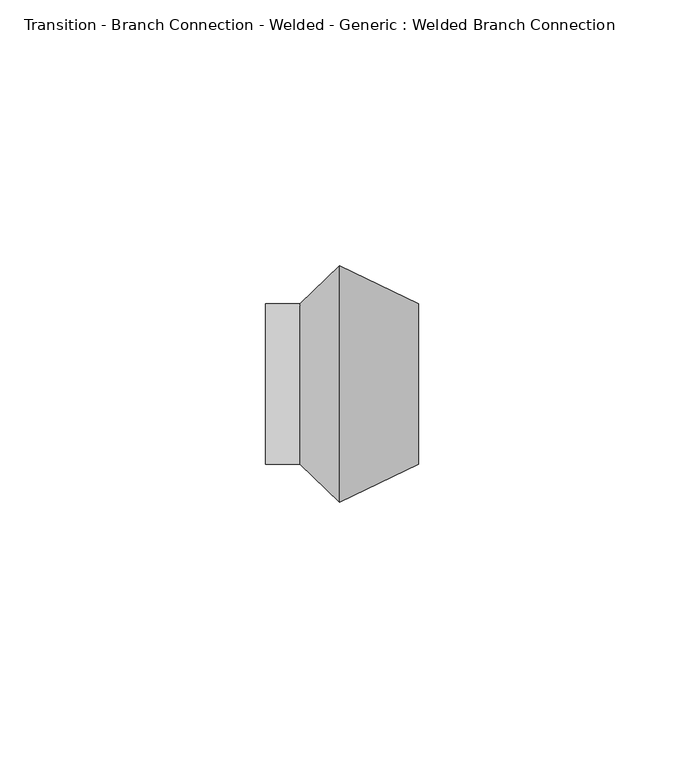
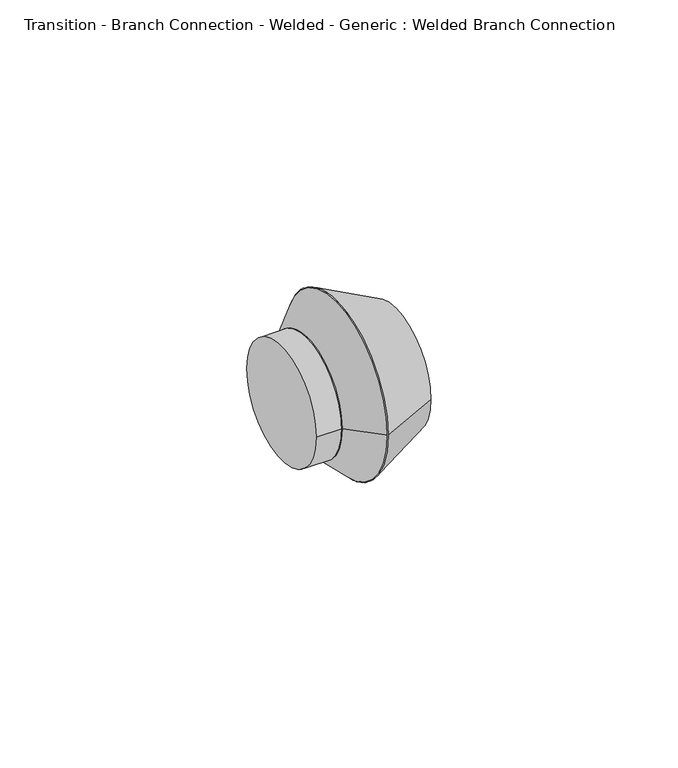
"""IFC4 building model written with IfcOpenShell, lengths in millimetres: pipe fitting geometry, Transition - Branch Connection - Welded - Generic : Welded Branch Connection."""

from ifc_helpers import new_model, si_unit, point, frame, origin, origin_2d, place, context, project, spatial, polyline, circle_curve, trimmed, segment, composite_curve, outline, extrude, source, transform, mapped, element, save
from ifc_brep_helpers import plane_surface, revolved_surface, advanced_brep


def transition_branch_connection_welded_generic_welded_branch_79ac4859(model_context):
    return source(origin(), model_context, "Body", "SolidModel", [
        advanced_brep(
        [(7.4083333, 22.225, 0.0), (7.4083333, -22.225, 0.0), (22.225, 15.08125, 0.0), (22.225, -15.08125, 0.0)],
        [
            (0, 1, circle_curve(frame((7.4083333, 0.0, 0.0), z_axis=(-1.0, 0.0, 0.0), x_axis=(0.0, -1.0, 0.0)), 22.225)),
            (1, 0, circle_curve(frame((7.4083333, 0.0, 0.0), z_axis=(-1.0, 0.0, 0.0), x_axis=(0.0, 1.0, 0.0)), 22.225)),
            (2, 3, circle_curve(frame((22.225, 0.0, 0.0), z_axis=(1.0, 0.0, 0.0), x_axis=(0.0, 1.0, 0.0)), 15.08125)),
            (3, 2, circle_curve(frame((22.225, 0.0, 0.0), z_axis=(1.0, 0.0, 0.0), x_axis=(0.0, -1.0, 0.0)), 15.08125)),
            (3, 1),
            (0, 2),
        ],
        [
            plane_surface(frame((7.4083333, 0.0, 0.0), z_axis=(-1.0, 0.0, 0.0), x_axis=(0.0, 0.0, -1.0))),
            plane_surface(frame((22.225, 0.0, 0.0), z_axis=(1.0, 0.0, 0.0), x_axis=(0.0, 0.0, -1.0))),
            revolved_surface(polyline([(22.225000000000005, -15.081249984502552, 0.0), (7.4083333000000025, -22.225, 0.0)]), (53.5046296, 0.0, 0.0), (-1.0, 0.0, 0.0)),
            revolved_surface(polyline([(22.225000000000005, 15.081249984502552, 0.0), (7.4083333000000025, 22.225, 0.0)]), (53.5046296, 0.0, 0.0), (-1.0, 0.0, 0.0)),
        ],
        [
            (0, [[1, 2]]),
            (1, [[3, 4]]),
            (2, [[5, -1, 6, -4]]),
            (3, [[-6, -2, -5, -3]]),
        ],
    ),
        advanced_brep(
        [(7.4083333, 22.225, 0.0), (7.4083333, -22.225, 0.0), (0.0, 15.08125, 0.0), (0.0, -15.08125, 0.0)],
        [
            (0, 1, circle_curve(frame((7.4083333, 0.0, 0.0), z_axis=(1.0, 0.0, 0.0), x_axis=(0.0, -1.0, 0.0)), 22.225)),
            (1, 0, circle_curve(frame((7.4083333, 0.0, 0.0), z_axis=(1.0, 0.0, 0.0), x_axis=(0.0, 1.0, 0.0)), 22.225)),
            (2, 3, circle_curve(frame((0.0, 0.0, 0.0), z_axis=(-1.0, 0.0, 0.0), x_axis=(0.0, 1.0, 0.0)), 15.08125)),
            (3, 2, circle_curve(frame((0.0, 0.0, 0.0), z_axis=(-1.0, 0.0, 0.0), x_axis=(0.0, -1.0, 0.0)), 15.08125)),
            (2, 0),
            (1, 3),
        ],
        [
            plane_surface(frame((7.4083333, 0.0, 0.0), z_axis=(1.0, 0.0, 0.0), x_axis=(0.0, 0.0, -1.0))),
            plane_surface(frame((0.0, 0.0, 0.0), z_axis=(-1.0, 0.0, 0.0), x_axis=(0.0, 0.0, -1.0))),
            revolved_surface(polyline([(0.0, 15.08125001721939, 0.0), (7.408333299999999, 22.225, 0.0)]), (-15.6398148, 0.0, 0.0), (1.0, 0.0, 0.0)),
            revolved_surface(polyline([(0.0, -15.08125001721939, 0.0), (7.408333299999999, -22.225, 0.0)]), (-15.6398148, 0.0, 0.0), (1.0, 0.0, 0.0)),
        ],
        [
            (0, [[1, 2]]),
            (1, [[3, 4]]),
            (2, [[5, -2, 6, -3]]),
            (3, [[-6, -1, -5, -4]]),
        ],
    ),
        extrude(outline(composite_curve([segment(trimmed(circle_curve(origin_2d(), 15.08125), [point((15.08125, 0.0))], [point((-15.08125, 0.0))], False, "CARTESIAN"), True, "CONTINUOUS"), segment(trimmed(circle_curve(origin_2d(), 15.08125), [point((-15.08125, 0.0))], [point((15.08125, 0.0))], False, "CARTESIAN"), True, "CONTINUOUS")], self_intersect=False)), frame((-6.5222691, 0.0, 0.0), z_axis=(1.0, 0.0, 0.0), x_axis=(0.0, 1.0, 0.0)), (0.0, 0.0, 1.0), 6.5222691),
    ])


if __name__ == "__main__":
    model = new_model("IFC4")
    model_context = context("Model", 3, world=origin())
    ifc_project = project(units=[si_unit("LENGTHUNIT", "METRE", prefix="MILLI")], contexts=[model_context])
    site = spatial("IfcSite", under=ifc_project)
    building = spatial("IfcBuilding", under=site)
    placement = place(None, origin())
    transition_branch_connection_welded_generic_welded_branch_shape = transition_branch_connection_welded_generic_welded_branch_79ac4859(model_context)
    element("IfcPipeFitting", 1, ObjectType="Transition - Branch Connection - Welded - Generic : Welded Branch Connection", at=placement, inside=building, context=model_context, shape_type="MappedRepresentation", body=[
        mapped(transition_branch_connection_welded_generic_welded_branch_shape, transform((0.0, 0.0, 0.0), x_axis=(1.0, 0.0, 0.0), y_axis=(0.0, 1.0, 0.0), z_axis=(0.0, 0.0, 1.0))),
    ])
    save(model, "model.ifc")
